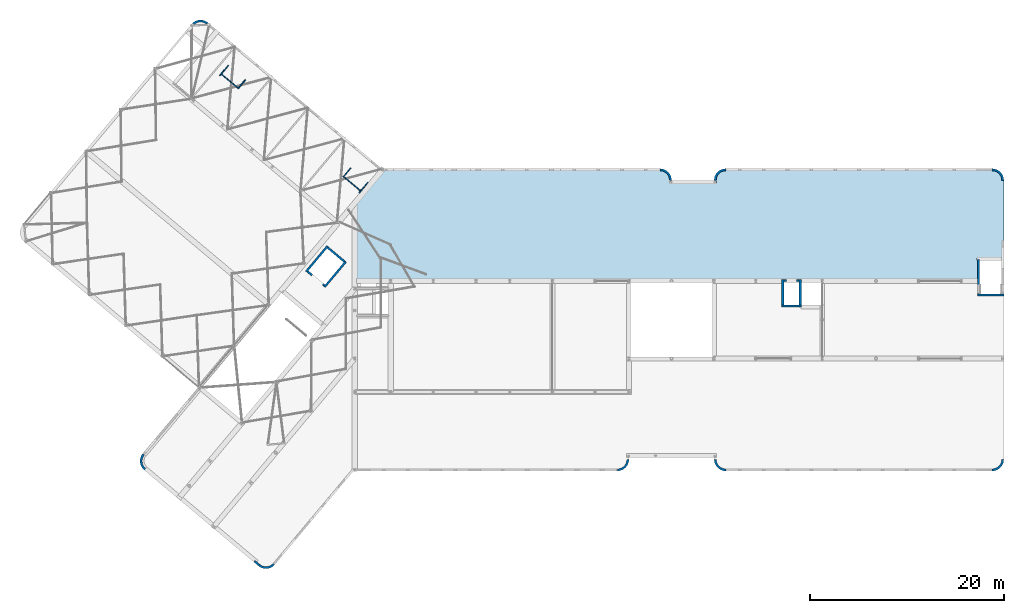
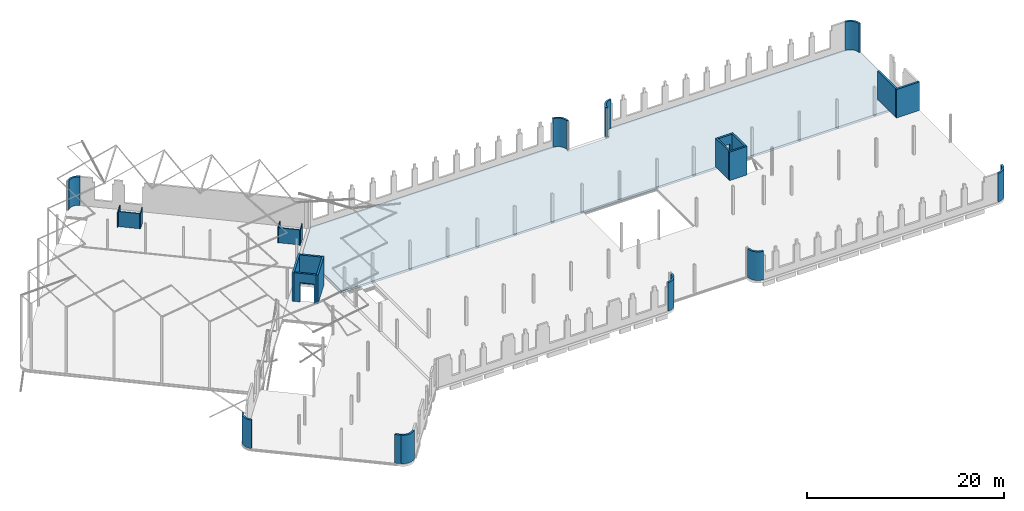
# One storey, part 22 of 25: 26 walls, 1 slab, 2 openings.
"""IFC2X3 building model written with IfcOpenShell, lengths in millimetres."""

from ifc_helpers import new_model, entity, si_unit, converted_unit, derived_unit, direction, frame, frame_2d, origin, place, context, subcontext, project, spatial, polyline, circle_curve, parameter, trimmed, segment, composite_curve, rectangle, outline, extrude, material, layer, layer_set, layer_usage, type_object, element, save


model = new_model("IFC2X3")

# Units and contexts
model_context = context("Model", 3, precision=0.01, world=origin(), true_north=direction((6.123031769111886e-17, 1.0)))
body_context = subcontext(model_context, "Body", "Model", "MODEL_VIEW")
ifc_project = project(units=[si_unit("LENGTHUNIT", "METRE", prefix="MILLI"), si_unit("AREAUNIT", "SQUARE_METRE"), si_unit("VOLUMEUNIT", "CUBIC_METRE"), derived_unit("MASSDENSITYUNIT", [(si_unit("MASSUNIT", "GRAM", prefix="KILO"), 1), (si_unit("LENGTHUNIT", "METRE"), -3)]), si_unit("MASSUNIT", "GRAM", prefix="KILO"), converted_unit("PLANEANGLEUNIT", "DEGREE", entity("IfcPlaneAngleMeasure", 0.017453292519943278), si_unit("PLANEANGLEUNIT", "RADIAN"), dimensions=[0, 0, 0, 0, 0, 0, 0])], contexts=[model_context])

# Site, building, storey
site_placement = place(None, origin())
site = spatial("IfcSite", under=ifc_project, at=site_placement, Name="Default", CompositionType="ELEMENT")
building_placement = place(site_placement, origin())
building = spatial("IfcBuilding", under=site, at=building_placement, Name="AT constructie", CompositionType="ELEMENT")
storey_placement = place(building_placement, frame((0.0, 0.0, 3864.0)))
storey = spatial("IfcBuildingStorey", under=building, at=storey_placement, Name="01 eerste verdieping", CompositionType="ELEMENT", Elevation=3864.0)

# Slab
ifc_material_1 = material(Name="f2_beton_prefab_gen")
ifc_layer_1 = layer(ifc_material_1, 260.0)
ifc_layer_set_1 = layer_set([ifc_layer_1], Name="Floor:NLRS_23_FL_kanaalplaatvloer 260_gen_AT")
ifc_layer_usage_1 = layer_usage(ifc_layer_set_1, "AXIS3", "POSITIVE", 0.0)
slab_type = type_object("IfcSlabType", Name="NLRS_23_FL_kanaalplaatvloer 260_gen_AT", PredefinedType="FLOOR", material=ifc_layer_set_1)
slab_placement = place(storey_placement, origin())
element("IfcSlab", 1, at=slab_placement, inside=storey, type_object=slab_type, material=ifc_layer_usage_1, Name="Floor:NLRS_23_FL_kanaalplaatvloer 260_gen_AT", ObjectType="Floor:NLRS_23_FL_kanaalplaatvloer 260_gen_AT", PredefinedType="FLOOR", context=body_context, shape_type="SweptSolid", body=[
    extrude(outline(composite_curve([segment(polyline([(-7418.5571626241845, -40957.110389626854), (465.4717646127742, -40957.110389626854)]), True, "CONTINUOUS"), segment(polyline([(465.4717646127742, -40957.110389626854), (4051.44283737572, -37948.12338505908)]), True, "CONTINUOUS"), segment(polyline([(4051.44283737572, -37948.12338505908), (4051.4428373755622, -9607.110389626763)]), True, "CONTINUOUS"), segment(trimmed(circle_curve(frame_2d((2851.4428373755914, -9607.110389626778), x_axis=(1.0, 0.0)), 1200.0000000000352), [parameter(0.0)], [parameter(89.9999999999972)], True, "PARAMETER"), True, "CONTINUOUS"), segment(polyline([(2851.4428373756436, -8407.110389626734), (2851.442837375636, -8633.61038962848)]), True, "CONTINUOUS"), segment(polyline([(2851.4428373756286, -8633.61038962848), (2591.4428373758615, -8633.610389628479)]), True, "CONTINUOUS"), segment(polyline([(2591.4428373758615, -8633.610389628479), (2591.4428373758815, -3780.6103928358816)]), True, "CONTINUOUS"), segment(polyline([(2591.4428373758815, -3780.6103928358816), (2851.442837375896, -3780.6103928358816)]), True, "CONTINUOUS"), segment(polyline([(2851.442837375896, -3780.6103928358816), (2851.4428373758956, -4007.1103896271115)]), True, "CONTINUOUS"), segment(trimmed(circle_curve(frame_2d((2851.4428373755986, -2807.1103896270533), x_axis=(0.0, -1.0)), 1200.000000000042), [parameter(0.0)], [parameter(89.99999999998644)], True, "PARAMETER"), True, "CONTINUOUS"), segment(polyline([(4051.4428373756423, -2807.110389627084), (4051.4428373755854, 24692.889610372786)]), True, "CONTINUOUS"), segment(trimmed(circle_curve(frame_2d((2851.442837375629, 24692.88961037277), x_axis=(1.0, 0.0)), 1200.0000000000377), [parameter(0.0)], [parameter(89.99999999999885)], True, "PARAMETER"), True, "CONTINUOUS"), segment(polyline([(2851.4428373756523, 25892.88961037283), (-5188.557162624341, 25892.889610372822)]), True, "CONTINUOUS"), segment(polyline([(-5188.557162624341, 25892.889610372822), (-5188.557162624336, 23141.389614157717)]), True, "CONTINUOUS"), segment(polyline([(-5188.557162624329, 23141.389614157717), (-5448.557162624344, 23141.38961415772)]), True, "CONTINUOUS"), segment(polyline([(-5448.557162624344, 23141.389614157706), (-5448.557162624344, 23378.88961415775)]), True, "CONTINUOUS"), segment(polyline([(-5448.557162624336, 23378.88961415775), (-7418.557162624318, 23378.88961415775)]), True, "CONTINUOUS"), segment(polyline([(-7418.557162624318, 23378.88961415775), (-7418.557162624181, -40957.110389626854)]), True, "CONTINUOUS")], self_intersect=False)), frame((82253.98502073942, 38819.60067114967, -110.0), z_axis=(0.0, 0.0, -1.0), x_axis=(0.0, 1.0, 0.0)), (0.0, 0.0, 1.0), 259.9999999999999),
])

# Walls
ifc_material_2 = material(Name="f1_kalkzandsteen_CS20")
ifc_layer_2 = layer(ifc_material_2, 214.0)
ifc_layer_set_2 = layer_set([ifc_layer_2], Name="Basic Wall:NLRS_22_WA_kalkzandsteen 214_CS20_gen_AT")
ifc_layer_usage_2 = layer_usage(ifc_layer_set_2, "AXIS2", "NEGATIVE", 107.0)
wall_type_1 = type_object("IfcWallType", Name="NLRS_22_WA_kalkzandsteen 214_CS20_gen_AT", PredefinedType="STANDARD", material=ifc_layer_set_2)
wall_1_placement = place(storey_placement, frame((108039.87463111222, 41671.043508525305, -50.0)))
element("IfcWallStandardCase", 2, at=wall_1_placement, inside=storey, type_object=wall_type_1, material=ifc_layer_usage_2, Name="Basic Wall:NLRS_22_WA_kalkzandsteen 214_CS20_gen_AT", ObjectType="Basic Wall:NLRS_22_WA_kalkzandsteen 214_CS20_gen_AT", context=body_context, shape_type="SweptSolid", body=[
    extrude(outline(composite_curve([segment(trimmed(circle_curve(frame_2d((-1093.0, 0.0), x_axis=(1.0, 0.0)), 986.0000000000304), [parameter(1.2213329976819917e-12)], [parameter(90.00000000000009)], True, "PARAMETER"), False, "CONTINUOUS"), segment(polyline([(-107.0, 0.0), (107.0, 0.0)]), True, "CONTINUOUS"), segment(trimmed(circle_curve(frame_2d((-1093.0, 0.0), x_axis=(1.0, 0.0)), 1200.0000000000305), [parameter(1.2408743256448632e-12)], [parameter(90.00000000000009)], True, "PARAMETER"), True, "CONTINUOUS"), segment(polyline([(-1093.0, 1200.0), (-1093.0, 986.0)]), True, "CONTINUOUS")], self_intersect=False)), origin(), (0.0, 0.0, 1.0), 3544.0000000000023),
])
ifc_layer_usage_3 = layer_usage(ifc_layer_set_2, "AXIS2", "NEGATIVE", 107.0)
wall_2_placement = place(storey_placement, frame((78353.87463111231, 41671.0435085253, -50.0), z_axis=(0.0, 0.0, 1.0), x_axis=(-1.0, 0.0, 0.0)))
element("IfcWallStandardCase", 3, at=wall_2_placement, inside=storey, type_object=wall_type_1, material=ifc_layer_usage_3, Name="Basic Wall:NLRS_22_WA_kalkzandsteen 214_CS20_gen_AT", ObjectType="Basic Wall:NLRS_22_WA_kalkzandsteen 214_CS20_gen_AT", context=body_context, shape_type="SweptSolid", body=[
    extrude(outline(composite_curve([segment(trimmed(circle_curve(frame_2d((-1093.0, 0.0), x_axis=(1.0, 0.0)), 1200.0000000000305), [parameter(269.9999999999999)], [parameter(359.999999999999)], True, "PARAMETER"), True, "CONTINUOUS"), segment(polyline([(107.0, 0.0), (-107.0, 0.0)]), True, "CONTINUOUS"), segment(trimmed(circle_curve(frame_2d((-1093.0, 0.0), x_axis=(1.0, 0.0)), 986.0000000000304), [parameter(269.9999999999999)], [parameter(359.999999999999)], True, "PARAMETER"), False, "CONTINUOUS"), segment(polyline([(-1093.0, -986.0), (-1093.0, -1200.0)]), True, "CONTINUOUS")], self_intersect=False)), origin(), (0.0, 0.0, 1.0), 3544.0000000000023),
])
ifc_layer_usage_4 = layer_usage(ifc_layer_set_2, "AXIS2", "NEGATIVE", 107.0)
wall_3_placement = place(storey_placement, frame((73739.87463111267, 41671.043508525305, -50.0)))
element("IfcWallStandardCase", 4, at=wall_3_placement, inside=storey, type_object=wall_type_1, material=ifc_layer_usage_4, Name="Basic Wall:NLRS_22_WA_kalkzandsteen 214_CS20_gen_AT", ObjectType="Basic Wall:NLRS_22_WA_kalkzandsteen 214_CS20_gen_AT", context=body_context, shape_type="SweptSolid", body=[
    extrude(outline(composite_curve([segment(trimmed(circle_curve(frame_2d((-1093.0, 0.0), x_axis=(1.0, 0.0)), 986.0000000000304), [parameter(1.2213329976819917e-12)], [parameter(90.00000000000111)], True, "PARAMETER"), False, "CONTINUOUS"), segment(polyline([(-107.0, 0.0), (107.0, 0.0)]), True, "CONTINUOUS"), segment(trimmed(circle_curve(frame_2d((-1093.0, 0.0), x_axis=(1.0, 0.0)), 1200.0000000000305), [parameter(1.2408743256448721e-12)], [parameter(90.0000000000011)], True, "PARAMETER"), True, "CONTINUOUS"), segment(polyline([(-1093.0, 1200.0), (-1093.0, 986.0)]), True, "CONTINUOUS")], self_intersect=False)), origin(), (0.0, 0.0, 1.0), 3544.0000000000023),
])
ifc_layer_usage_5 = layer_usage(ifc_layer_set_2, "AXIS2", "NEGATIVE", 107.0)
wall_4_placement = place(storey_placement, frame((108039.87463111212, 12871.04350852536, -50.0)))
element("IfcWallStandardCase", 5, at=wall_4_placement, inside=storey, type_object=wall_type_1, material=ifc_layer_usage_5, Name="Basic Wall:NLRS_22_WA_kalkzandsteen 214_CS20_gen_AT", ObjectType="Basic Wall:NLRS_22_WA_kalkzandsteen 214_CS20_gen_AT", context=body_context, shape_type="SweptSolid", body=[
    extrude(outline(composite_curve([segment(trimmed(circle_curve(frame_2d((-1093.0, 0.0), x_axis=(1.0, 0.0)), 1200.0000000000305), [parameter(269.99999999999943)], [parameter(359.99999999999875)], True, "PARAMETER"), True, "CONTINUOUS"), segment(polyline([(107.0, 0.0), (-107.0, 0.0)]), True, "CONTINUOUS"), segment(trimmed(circle_curve(frame_2d((-1093.0, 0.0), x_axis=(1.0, 0.0)), 986.0000000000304), [parameter(269.99999999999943)], [parameter(359.99999999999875)], True, "PARAMETER"), False, "CONTINUOUS"), segment(polyline([(-1093.0, -986.0), (-1093.0, -1200.0)]), True, "CONTINUOUS")], self_intersect=False)), origin(), (0.0, 0.0, 1.0), 3544.0000000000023),
])
ifc_layer_usage_6 = layer_usage(ifc_layer_set_2, "AXIS2", "NEGATIVE", 107.0)
wall_5_placement = place(storey_placement, frame((78353.87463111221, 12871.043508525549, -50.0), z_axis=(0.0, 0.0, 1.0), x_axis=(-1.0, 0.0, 0.0)))
element("IfcWallStandardCase", 6, at=wall_5_placement, inside=storey, type_object=wall_type_1, material=ifc_layer_usage_6, Name="Basic Wall:NLRS_22_WA_kalkzandsteen 214_CS20_gen_AT", ObjectType="Basic Wall:NLRS_22_WA_kalkzandsteen 214_CS20_gen_AT", context=body_context, shape_type="SweptSolid", body=[
    extrude(outline(composite_curve([segment(trimmed(circle_curve(frame_2d((-1093.0, 0.0), x_axis=(1.0, 0.0)), 986.0000000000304), [parameter(1.2213329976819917e-12)], [parameter(90.00000000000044)], True, "PARAMETER"), False, "CONTINUOUS"), segment(polyline([(-107.0, 0.0), (107.0, 0.0)]), True, "CONTINUOUS"), segment(trimmed(circle_curve(frame_2d((-1093.0, 0.0), x_axis=(1.0, 0.0)), 1200.0000000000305), [parameter(1.2053977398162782e-12)], [parameter(90.00000000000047)], True, "PARAMETER"), True, "CONTINUOUS"), segment(polyline([(-1093.0, 1200.0), (-1093.0, 986.0)]), True, "CONTINUOUS")], self_intersect=False)), origin(), (0.0, 0.0, 1.0), 3544.0000000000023),
])
ifc_layer_usage_7 = layer_usage(ifc_layer_set_2, "AXIS2", "NEGATIVE", 107.0)
wall_6_placement = place(storey_placement, frame((69339.8746311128, 12871.043508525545, -50.0)))
element("IfcWallStandardCase", 7, at=wall_6_placement, inside=storey, type_object=wall_type_1, material=ifc_layer_usage_7, Name="Basic Wall:NLRS_22_WA_kalkzandsteen 214_CS20_gen_AT", ObjectType="Basic Wall:NLRS_22_WA_kalkzandsteen 214_CS20_gen_AT", context=body_context, shape_type="SweptSolid", body=[
    extrude(outline(composite_curve([segment(trimmed(circle_curve(frame_2d((-1093.0, 0.0), x_axis=(1.0, 0.0)), 1200.0000000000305), [parameter(269.9999999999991)], [parameter(359.99999999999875)], True, "PARAMETER"), True, "CONTINUOUS"), segment(polyline([(107.0, 0.0), (-107.0, 0.0)]), True, "CONTINUOUS"), segment(trimmed(circle_curve(frame_2d((-1093.0, 0.0), x_axis=(1.0, 0.0)), 986.0000000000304), [parameter(269.9999999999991)], [parameter(359.99999999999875)], True, "PARAMETER"), False, "CONTINUOUS"), segment(polyline([(-1093.0, -986.0), (-1093.0, -1200.0)]), True, "CONTINUOUS")], self_intersect=False)), origin(), (0.0, 0.0, 1.0), 3544.0000000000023),
])
ifc_layer_usage_8 = layer_usage(ifc_layer_set_2, "AXIS2", "POSITIVE", -107.0)
wall_7_placement = place(storey_placement, frame((32794.092488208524, 2054.1612376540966, -50.0)))
element("IfcWallStandardCase", 8, at=wall_7_placement, inside=storey, type_object=wall_type_1, material=ifc_layer_usage_8, Name="Basic Wall:NLRS_22_WA_kalkzandsteen 214_CS20_gen_AT", ObjectType="Basic Wall:NLRS_22_WA_kalkzandsteen 214_CS20_gen_AT", context=body_context, shape_type="SweptSolid", body=[
    extrude(outline(composite_curve([segment(trimmed(circle_curve(frame_2d((-813.4140845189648, 730.0729601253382), x_axis=(1.0, 0.0)), 1200.0), [parameter(229.96819074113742)], [parameter(318.09070439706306)], True, "PARAMETER"), True, "CONTINUOUS"), segment(polyline([(79.62974111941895, -71.47100341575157), (-81.89912503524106, 68.95128898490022)]), True, "CONTINUOUS"), segment(trimmed(circle_curve(frame_2d((-813.4140845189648, 730.0729601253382), x_axis=(1.0, 0.0)), 986.0), [parameter(229.96819074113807)], [parameter(317.8936540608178)], True, "PARAMETER"), False, "CONTINUOUS"), segment(polyline([(-1447.6219056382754, -24.894880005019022), (-1585.269444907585, -188.75199743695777)]), True, "CONTINUOUS")], self_intersect=False)), origin(), (0.0, 0.0, 1.0), 3544.0000000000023),
])
ifc_layer_usage_9 = layer_usage(ifc_layer_set_2, "AXIS2", "POSITIVE", -107.0)
wall_8_placement = place(storey_placement, frame((105418.87463489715, 29814.0435085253, -50.0)))
element("IfcWallStandardCase", 9, at=wall_8_placement, inside=storey, type_object=wall_type_1, material=ifc_layer_usage_9, Name="Basic Wall:NLRS_22_WA_kalkzandsteen 214_CS20_gen_AT", ObjectType="Basic Wall:NLRS_22_WA_kalkzandsteen 214_CS20_gen_AT", context=body_context, shape_type="SweptSolid", body=[
    extrude(rectangle(XDim=2727.9999962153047, YDim=214.00000000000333, at=frame_2d((1363.9999981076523, -7.105427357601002e-15), x_axis=(-1.0, 0.0))), origin(), (0.0, 0.0, 1.0), 3544.0000000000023),
])
ifc_layer_usage_10 = layer_usage(ifc_layer_set_2, "AXIS2", "POSITIVE", -107.0)
wall_9_placement = place(storey_placement, frame((105525.87463489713, 33493.043508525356, -50.0), z_axis=(0.0, 0.0, 1.0), x_axis=(0.0, -1.0, 0.0)))
element("IfcWallStandardCase", 10, at=wall_9_placement, inside=storey, type_object=wall_type_1, material=ifc_layer_usage_10, Name="Basic Wall:NLRS_22_WA_kalkzandsteen 214_CS20_gen_AT", ObjectType="Basic Wall:NLRS_22_WA_kalkzandsteen 214_CS20_gen_AT", context=body_context, shape_type="SweptSolid", body=[
    extrude(rectangle(XDim=3572.00000000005, YDim=213.99999999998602, at=frame_2d((1786.000000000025, 3.268496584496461e-13), x_axis=(-1.0, 0.0))), origin(), (0.0, 0.0, 1.0), 3544.0000000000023),
])
ifc_layer_usage_11 = layer_usage(ifc_layer_set_2, "AXIS2", "POSITIVE", -107.0)
wall_10_placement = place(storey_placement, frame((38336.94433207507, 34883.24807736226, -50.0), z_axis=(0.0, 0.0, 1.0), x_axis=(-0.6427876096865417, -0.7660444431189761, 0.0)))
element("IfcWallStandardCase", 11, at=wall_10_placement, inside=storey, type_object=wall_type_1, material=ifc_layer_usage_11, Name="Basic Wall:NLRS_22_WA_kalkzandsteen 214_CS20_gen_AT", ObjectType="Basic Wall:NLRS_22_WA_kalkzandsteen 214_CS20_gen_AT", context=body_context, shape_type="SweptSolid", body=[
    extrude(rectangle(XDim=3438.0000000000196, YDim=214.00000000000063, at=frame_2d((1719.0000000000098, 5.613287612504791e-13), x_axis=(-1.0, 0.0))), origin(), (0.0, 0.0, 1.0), 3544.0000000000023),
])
ifc_layer_usage_12 = layer_usage(ifc_layer_set_2, "AXIS2", "NEGATIVE", 107.0)
wall_11_placement = place(storey_placement, frame((40232.13828435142, 33292.991530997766, -50.0), z_axis=(0.0, 0.0, 1.0), x_axis=(-0.6427876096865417, -0.7660444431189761, 0.0)))
element("IfcWallStandardCase", 12, at=wall_11_placement, inside=storey, type_object=wall_type_1, material=ifc_layer_usage_12, Name="Basic Wall:NLRS_22_WA_kalkzandsteen 214_CS20_gen_AT", ObjectType="Basic Wall:NLRS_22_WA_kalkzandsteen 214_CS20_gen_AT", context=body_context, shape_type="SweptSolid", body=[
    extrude(rectangle(XDim=3438.0000000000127, YDim=214.00000000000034, at=frame_2d((1719.0000000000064, 6.963318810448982e-13), x_axis=(-1.0, 0.0))), origin(), (0.0, 0.0, 1.0), 3544.0000000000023),
])
ifc_layer_usage_13 = layer_usage(ifc_layer_set_2, "AXIS2", "NEGATIVE", 107.0)
wall_12_placement = place(storey_placement, frame((38350.13281325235, 34732.50304771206, -50.0), z_axis=(0.0, 0.0, 1.0), x_axis=(0.7660444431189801, -0.6427876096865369, 0.0)))
element("IfcWallStandardCase", 13, at=wall_12_placement, inside=storey, type_object=wall_type_1, material=ifc_layer_usage_13, Name="Basic Wall:NLRS_22_WA_kalkzandsteen 214_CS20_gen_AT", ObjectType="Basic Wall:NLRS_22_WA_kalkzandsteen 214_CS20_gen_AT", context=body_context, shape_type="SweptSolid", body=[
    extrude(rectangle(XDim=2259.9999999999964, YDim=214.00000000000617, at=frame_2d((1129.9999999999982, 7.247535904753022e-13), x_axis=(-1.0, 0.0))), origin(), (0.0, 0.0, 1.0), 3544.0000000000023),
])

# Wall, opening
ifc_layer_usage_14 = layer_usage(ifc_layer_set_2, "AXIS2", "POSITIVE", -107.0)
wall_13_placement = place(storey_placement, frame((36277.78555962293, 32262.775763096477, -50.0), z_axis=(0.0, 0.0, 1.0), x_axis=(0.7660444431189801, -0.6427876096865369, 0.0)))
wall_13 = element("IfcWallStandardCase", 14, at=wall_13_placement, inside=storey, type_object=wall_type_1, material=ifc_layer_usage_14, Name="Basic Wall:NLRS_22_WA_kalkzandsteen 214_CS20_gen_AT", ObjectType="Basic Wall:NLRS_22_WA_kalkzandsteen 214_CS20_gen_AT", context=body_context, shape_type="SweptSolid", body=[
    extrude(rectangle(XDim=2260.0000000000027, YDim=214.00000000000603, at=frame_2d((1129.999999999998, -2.3518964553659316e-12), x_axis=(-1.0, 0.0))), origin(), (0.0, 0.0, 1.0), 3544.0000000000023),
])
opening_1_placement = place(wall_13_placement, frame((-7052.2835219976, -48033.631157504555, 50.0), z_axis=(0.0, 0.0, 1.0), x_axis=(0.7660444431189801, 0.6427876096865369, 0.0)))
element("IfcOpeningElement", 15, at=opening_1_placement, cuts=wall_13, Name="Basic Wall:NLRS_22_WA_kalkzandsteen 214_CS20_gen_AT", ObjectType="Opening", context=body_context, shape_type="SweptSolid", body=[
    extrude(rectangle(XDim=2399.9999999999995, YDim=1449.9999999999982, at=frame_2d((-1.4210854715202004e-12, -2.2737367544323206e-13), x_axis=(0.0, 1.0))), frame((36244.40785535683, 30161.66369353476, 1150.0), z_axis=(0.6427876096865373, 0.7660444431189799, 0.0), x_axis=(0.7660444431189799, -0.6427876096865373, 0.0)), (0.0, 0.0, 1.0), 3048.0),
])

# Walls
ifc_layer_usage_15 = layer_usage(ifc_layer_set_2, "AXIS2", "NEGATIVE", 107.0)
wall_14_placement = place(storey_placement, frame((31277.64682354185, 1947.3378115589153, -50.0), z_axis=(0.0, 0.0, 1.0), x_axis=(-0.7660444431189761, 0.6427876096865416, 0.0)))
element("IfcWallStandardCase", 16, at=wall_14_placement, inside=storey, type_object=wall_type_1, material=ifc_layer_usage_15, Name="Basic Wall:NLRS_22_WA_kalkzandsteen 214_CS20_gen_AT", ObjectType="Basic Wall:NLRS_22_WA_kalkzandsteen 214_CS20_gen_AT", context=body_context, shape_type="SweptSolid", body=[
    extrude(rectangle(XDim=645.0594038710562, YDim=214.0000000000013, at=frame_2d((322.5297019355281, -2.3447910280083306e-13), x_axis=(-1.0, 0.0))), origin(), (0.0, 0.0, 1.0), 3544.0000000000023),
])
ifc_layer_usage_16 = layer_usage(ifc_layer_set_2, "AXIS2", "POSITIVE", -107.0)
wall_15_placement = place(storey_placement, frame((24374.4188912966, 57728.6650726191, -50.0), z_axis=(0.0, 0.0, 1.0), x_axis=(-1.0, 0.0, 0.0)))
element("IfcWallStandardCase", 17, at=wall_15_placement, inside=storey, type_object=wall_type_1, material=ifc_layer_usage_16, Name="Basic Wall:NLRS_22_WA_kalkzandsteen 214_CS20_gen_AT", ObjectType="Basic Wall:NLRS_22_WA_kalkzandsteen 214_CS20_gen_AT", context=body_context, shape_type="SweptSolid", body=[
    extrude(outline(composite_curve([segment(trimmed(circle_curve(frame_2d((-836.8581882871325, 703.0770745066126), x_axis=(1.0, 0.0)), 1200.0), [parameter(229.9650767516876)], [parameter(319.9650767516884)], True, "PARAMETER"), True, "CONTINUOUS"), segment(polyline([(81.9248180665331, -68.82822229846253), (-81.9248180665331, 68.82822229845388)]), True, "CONTINUOUS"), segment(trimmed(circle_curve(frame_2d((-836.8581882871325, 703.0770745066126), x_axis=(1.0, 0.0)), 986.0), [parameter(229.9650767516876)], [parameter(319.9650767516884)], True, "PARAMETER"), False, "CONTINUOUS"), segment(polyline([(-1471.1070404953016, -51.856295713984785), (-1608.7634850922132, -215.70593184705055)]), True, "CONTINUOUS")], self_intersect=False)), origin(), (0.0, 0.0, 1.0), 3544.0000000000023),
])
ifc_layer_usage_17 = layer_usage(ifc_layer_set_2, "AXIS2", "POSITIVE", -107.0)
wall_16_placement = place(storey_placement, frame((85216.87463111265, 28678.04350852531, -50.0)))
element("IfcWallStandardCase", 18, at=wall_16_placement, inside=storey, type_object=wall_type_1, material=ifc_layer_usage_17, Name="Basic Wall:NLRS_22_WA_kalkzandsteen 214_CS20_gen_AT", ObjectType="Basic Wall:NLRS_22_WA_kalkzandsteen 214_CS20_gen_AT", context=body_context, shape_type="SweptSolid", body=[
    extrude(rectangle(XDim=2028.0000000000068, YDim=214.00000000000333, at=frame_2d((1014.0000000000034, 1.0516032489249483e-12), x_axis=(-1.0, 0.0))), origin(), (0.0, 0.0, 1.0), 3544.0000000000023),
])
ifc_layer_usage_18 = layer_usage(ifc_layer_set_2, "AXIS2", "NEGATIVE", 107.0)
wall_17_placement = place(storey_placement, frame((85323.87463111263, 31421.0435085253, -50.0), z_axis=(0.0, 0.0, 1.0), x_axis=(0.0, -1.0, 0.0)))
element("IfcWallStandardCase", 19, at=wall_17_placement, inside=storey, type_object=wall_type_1, material=ifc_layer_usage_18, Name="Basic Wall:NLRS_22_WA_kalkzandsteen 214_CS20_gen_AT", ObjectType="Basic Wall:NLRS_22_WA_kalkzandsteen 214_CS20_gen_AT", context=body_context, shape_type="SweptSolid", body=[
    extrude(rectangle(XDim=2635.99999999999, YDim=213.99999999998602, at=frame_2d((1317.999999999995, -3.879563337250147e-12), x_axis=(-1.0, 0.0))), origin(), (0.0, 0.0, 1.0), 3544.0000000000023),
])
ifc_layer_usage_19 = layer_usage(ifc_layer_set_2, "AXIS2", "NEGATIVE", 107.0)
wall_18_placement = place(storey_placement, frame((87137.87463111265, 31421.043508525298, -50.0), z_axis=(0.0, 0.0, 1.0), x_axis=(0.0, -1.0, 0.0)))
element("IfcWallStandardCase", 20, at=wall_18_placement, inside=storey, type_object=wall_type_1, material=ifc_layer_usage_19, Name="Basic Wall:NLRS_22_WA_kalkzandsteen 214_CS20_gen_AT", ObjectType="Basic Wall:NLRS_22_WA_kalkzandsteen 214_CS20_gen_AT", context=body_context, shape_type="SweptSolid", body=[
    extrude(rectangle(XDim=2635.99999999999, YDim=213.99999999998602, at=frame_2d((1317.999999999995, -3.879563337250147e-12), x_axis=(-1.0, 0.0))), origin(), (0.0, 0.0, 1.0), 3544.0000000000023),
])

# Wall, opening
ifc_layer_usage_20 = layer_usage(ifc_layer_set_2, "AXIS2", "NEGATIVE", 107.0)
wall_19_placement = place(storey_placement, frame((85430.87463111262, 31314.043508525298, -50.0)))
wall_19 = element("IfcWallStandardCase", 21, at=wall_19_placement, inside=storey, type_object=wall_type_1, material=ifc_layer_usage_20, Name="Basic Wall:NLRS_22_WA_kalkzandsteen 214_CS20_gen_AT", ObjectType="Basic Wall:NLRS_22_WA_kalkzandsteen 214_CS20_gen_AT", context=body_context, shape_type="SweptSolid", body=[
    extrude(rectangle(XDim=1600.0000000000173, YDim=214.00000000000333, at=frame_2d((800.0000000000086, 3.694822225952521e-13), x_axis=(-1.0, 0.0))), origin(), (0.0, 0.0, 1.0), 3544.0000000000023),
])
opening_2_placement = place(wall_19_placement, frame((-85430.87463111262, -31314.043508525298, 50.0)))
element("IfcOpeningElement", 22, at=opening_2_placement, cuts=wall_19, Name="Basic Wall:NLRS_22_WA_kalkzandsteen 214_CS20_gen_AT", ObjectType="Opening", context=body_context, shape_type="SweptSolid", body=[
    extrude(rectangle(XDim=2399.9999999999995, YDim=1050.0000000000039, at=frame_2d((0.0, -2.2737367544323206e-13), x_axis=(0.0, 1.0))), frame((86230.8746311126, 29683.043508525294, 1150.0), z_axis=(0.0, 1.0, 0.0), x_axis=(1.0, 0.0, 0.0)), (0.0, 0.0, 1.0), 3048.0),
])

# Walls
ifc_layer_usage_21 = layer_usage(ifc_layer_set_2, "AXIS2", "POSITIVE", -107.0)
wall_20_placement = place(storey_placement, frame((19480.516890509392, 11846.305179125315, -50.0)))
element("IfcWallStandardCase", 23, at=wall_20_placement, inside=storey, type_object=wall_type_1, material=ifc_layer_usage_21, Name="Basic Wall:NLRS_22_WA_kalkzandsteen 214_CS20_gen_AT", ObjectType="Basic Wall:NLRS_22_WA_kalkzandsteen 214_CS20_gen_AT", context=body_context, shape_type="SweptSolid", body=[
    extrude(outline(composite_curve([segment(trimmed(circle_curve(frame_2d((702.5668818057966, 837.2865838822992), x_axis=(1.0, 0.0)), 1200.00002148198), [parameter(140.00000072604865)], [parameter(229.99999927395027)], True, "PARAMETER"), True, "CONTINUOUS"), segment(polyline([(-68.77827527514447, -81.96675454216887), (68.77827527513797, 81.96675454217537)]), True, "CONTINUOUS"), segment(trimmed(circle_curve(frame_2d((702.5668818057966, 837.2865838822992), x_axis=(1.0, 0.0)), 986.00002148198), [parameter(140.00000072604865)], [parameter(229.99999927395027)], True, "PARAMETER"), False, "CONTINUOUS"), segment(polyline([(-52.75296359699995, 1471.075171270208), (-216.68647616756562, 1608.6317176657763)]), True, "CONTINUOUS")], self_intersect=False)), origin(), (0.0, 0.0, 1.0), 3544.0),
])
ifc_material_3 = material(Name="f1_kalkzandsteen_gen")
ifc_layer_3 = layer(ifc_material_3, 100.0)
ifc_layer_set_3 = layer_set([ifc_layer_3], Name="Basic Wall:NLRS_22_WA_kalkzandsteen 100_gen_AT")
ifc_layer_usage_22 = layer_usage(ifc_layer_set_3, "AXIS2", "NEGATIVE", 50.0)
wall_type_2 = type_object("IfcWallType", Name="NLRS_22_WA_kalkzandsteen 100_gen_AT", PredefinedType="STANDARD", material=ifc_layer_set_3)
wall_21_placement = place(storey_placement, frame((27205.6789723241, 52478.416072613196, -50.0), z_axis=(0.0, 0.0, 1.0), x_axis=(0.6427874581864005, 0.7660445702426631, 0.0)))
element("IfcWallStandardCase", 24, at=wall_21_placement, inside=storey, type_object=wall_type_2, material=ifc_layer_usage_22, Name="Basic Wall:NLRS_22_WA_kalkzandsteen 100_gen_AT", ObjectType="Basic Wall:NLRS_22_WA_kalkzandsteen 100_gen_AT", context=body_context, shape_type="SweptSolid", body=[
    extrude(rectangle(XDim=1380.0000000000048, YDim=100.00000000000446, at=frame_2d((690.0000000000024, -1.3962164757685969e-12), x_axis=(-1.0, 0.0))), origin(), (0.0, 0.0, 1.0), 1874.0000000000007),
])
ifc_layer_usage_23 = layer_usage(ifc_layer_set_3, "AXIS2", "NEGATIVE", 50.0)
wall_22_placement = place(storey_placement, frame((29852.287596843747, 52054.35657697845, -50.0), z_axis=(0.0, 0.0, 1.0), x_axis=(-0.6427874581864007, -0.7660445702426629, 0.0)))
element("IfcWallStandardCase", 25, at=wall_22_placement, inside=storey, type_object=wall_type_2, material=ifc_layer_usage_23, Name="Basic Wall:NLRS_22_WA_kalkzandsteen 100_gen_AT", ObjectType="Basic Wall:NLRS_22_WA_kalkzandsteen 100_gen_AT", context=body_context, shape_type="SweptSolid", body=[
    extrude(rectangle(XDim=1200.000000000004, YDim=100.00000000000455, at=frame_2d((600.000000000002, 1.9539925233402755e-13), x_axis=(-1.0, 0.0))), origin(), (0.0, 0.0, 1.0), 1874.0000000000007),
])
ifc_layer_usage_24 = layer_usage(ifc_layer_set_3, "AXIS2", "NEGATIVE", 50.0)
wall_23_placement = place(storey_placement, frame((29074.779812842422, 51205.54470339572, -50.0), z_axis=(0.0, 0.0, 1.0), x_axis=(-0.7660444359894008, 0.6427876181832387, 0.0)))
element("IfcWallStandardCase", 26, at=wall_23_placement, inside=storey, type_object=wall_type_2, material=ifc_layer_usage_24, Name="Basic Wall:NLRS_22_WA_kalkzandsteen 100_gen_AT", ObjectType="Basic Wall:NLRS_22_WA_kalkzandsteen 100_gen_AT", context=body_context, shape_type="SweptSolid", body=[
    extrude(rectangle(XDim=2200.000312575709, YDim=99.99999999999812, at=frame_2d((1100.0001562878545, -5.577760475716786e-13), x_axis=(-1.0, 0.0))), origin(), (0.0, 0.0, 1.0), 1874.0000000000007),
])
ifc_layer_usage_25 = layer_usage(ifc_layer_set_3, "AXIS2", "NEGATIVE", 50.0)
wall_24_placement = place(storey_placement, frame((39958.77330938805, 42007.51897656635, -50.0), z_axis=(0.0, 0.0, 1.0), x_axis=(0.6427874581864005, 0.7660445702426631, 0.0)))
element("IfcWallStandardCase", 27, at=wall_24_placement, inside=storey, type_object=wall_type_2, material=ifc_layer_usage_25, Name="Basic Wall:NLRS_22_WA_kalkzandsteen 100_gen_AT", ObjectType="Basic Wall:NLRS_22_WA_kalkzandsteen 100_gen_AT", context=body_context, shape_type="SweptSolid", body=[
    extrude(rectangle(XDim=1203.6411526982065, YDim=99.9999999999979, at=frame_2d((601.8205763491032, 1.9539925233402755e-13), x_axis=(-1.0, 0.0))), origin(), (0.0, 0.0, 1.0), 1874.0000000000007),
])
ifc_layer_usage_26 = layer_usage(ifc_layer_set_3, "AXIS2", "NEGATIVE", 50.0)
wall_25_placement = place(storey_placement, frame((42492.020678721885, 41448.3607435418, -50.0), z_axis=(0.0, 0.0, 1.0), x_axis=(-0.6427874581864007, -0.7660445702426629, 0.0)))
element("IfcWallStandardCase", 28, at=wall_25_placement, inside=storey, type_object=wall_type_2, material=ifc_layer_usage_26, Name="Basic Wall:NLRS_22_WA_kalkzandsteen 100_gen_AT", ObjectType="Basic Wall:NLRS_22_WA_kalkzandsteen 100_gen_AT", context=body_context, shape_type="SweptSolid", body=[
    extrude(rectangle(XDim=1376.358356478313, YDim=99.99999999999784, at=frame_2d((688.1791782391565, 1.4814816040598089e-12), x_axis=(-1.0, 0.0))), origin(), (0.0, 0.0, 1.0), 1874.0000000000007),
])
ifc_layer_usage_27 = layer_usage(ifc_layer_set_3, "AXIS2", "NEGATIVE", 50.0)
wall_26_placement = place(storey_placement, frame((41714.51289472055, 40599.54886995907, -50.0), z_axis=(0.0, 0.0, 1.0), x_axis=(-0.7660444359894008, 0.6427876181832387, 0.0)))
element("IfcWallStandardCase", 29, at=wall_26_placement, inside=storey, type_object=wall_type_2, material=ifc_layer_usage_27, Name="Basic Wall:NLRS_22_WA_kalkzandsteen 100_gen_AT", ObjectType="Basic Wall:NLRS_22_WA_kalkzandsteen 100_gen_AT", context=body_context, shape_type="SweptSolid", body=[
    extrude(rectangle(XDim=2200.000312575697, YDim=100.0000000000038, at=frame_2d((1100.0001562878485, 7.105427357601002e-15), x_axis=(-1.0, 0.0))), origin(), (0.0, 0.0, 1.0), 1874.0000000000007),
])

save(model, "model.ifc")
